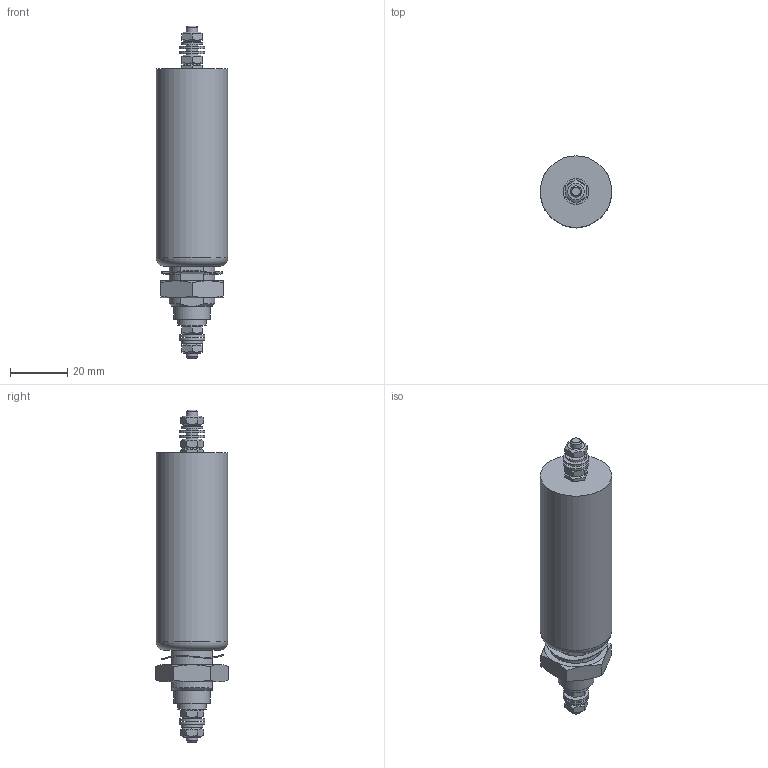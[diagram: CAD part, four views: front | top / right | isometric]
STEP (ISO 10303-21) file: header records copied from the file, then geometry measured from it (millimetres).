
FILE_DESCRIPTION((''),'2;1');
FILE_NAME('P:\Construction\Filter_Marketing\FN\FN7611\FN7611-16_32-M4\FN7611-16_32-M4.stp','2014-12-15T15:37:23',('erika.jenzer'),(''),'Autodesk Inventor 2013','Autodesk Inventor 2013','');
FILE_SCHEMA(('AUTOMOTIVE_DESIGN { 1 0 10303 214 1 1 1 1 }'));
Length unit declared in the file: millimetre
Products named in the file (1): FN7611-16_32-M4
Bounding box: 25 x 25.4 x 116 mm (x, y, z)
Volume: 39304.5 mm3; surface area: 9692.3 mm2
Topology: 8 solids, 8 shells, 134 faces, 303 edges, 195 vertices
Faces by surface type: plane 71, cone 33, cylinder 27, bspline 2, torus 1
Full cylindrical faces by diameter (mm): 4 x4, 4.3 x4, 9 x4, 10 x1, 12.6 x1, 16.4 x1, 21.5 x1, 25 x1
Entity records: 3872 total; most frequent: CARTESIAN_POINT 978, ORIENTED_EDGE 536, DIRECTION 529, EDGE_CURVE 268, AXIS2_PLACEMENT_3D 226, VERTEX_POINT 191, EDGE_LOOP 189, FACE_OUTER_BOUND 134
